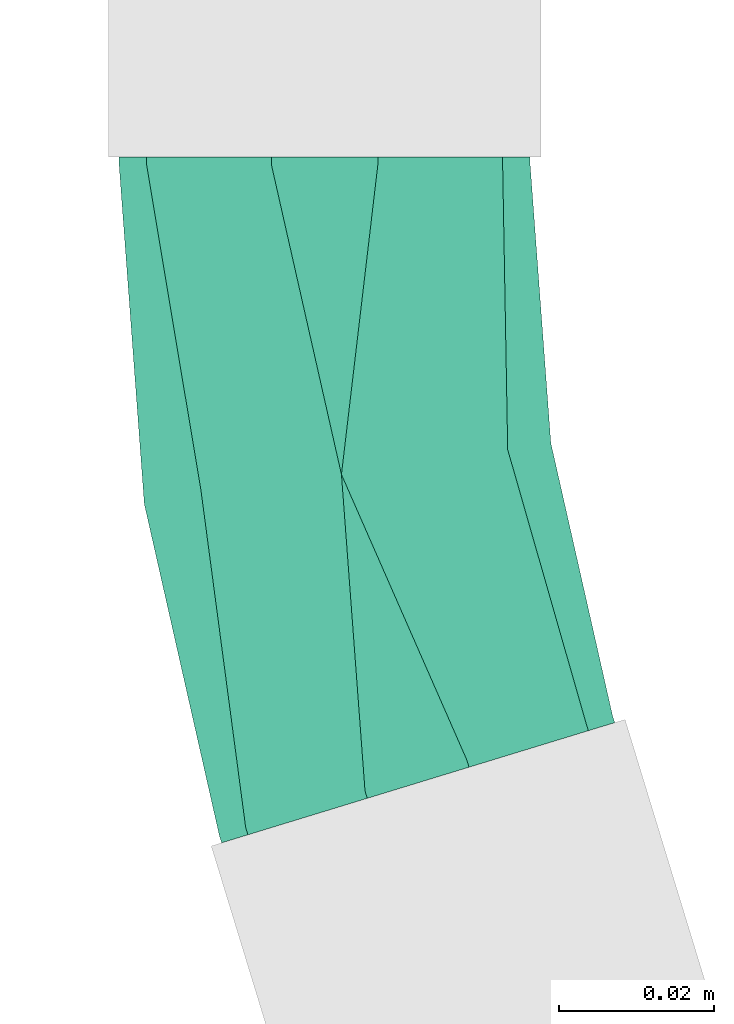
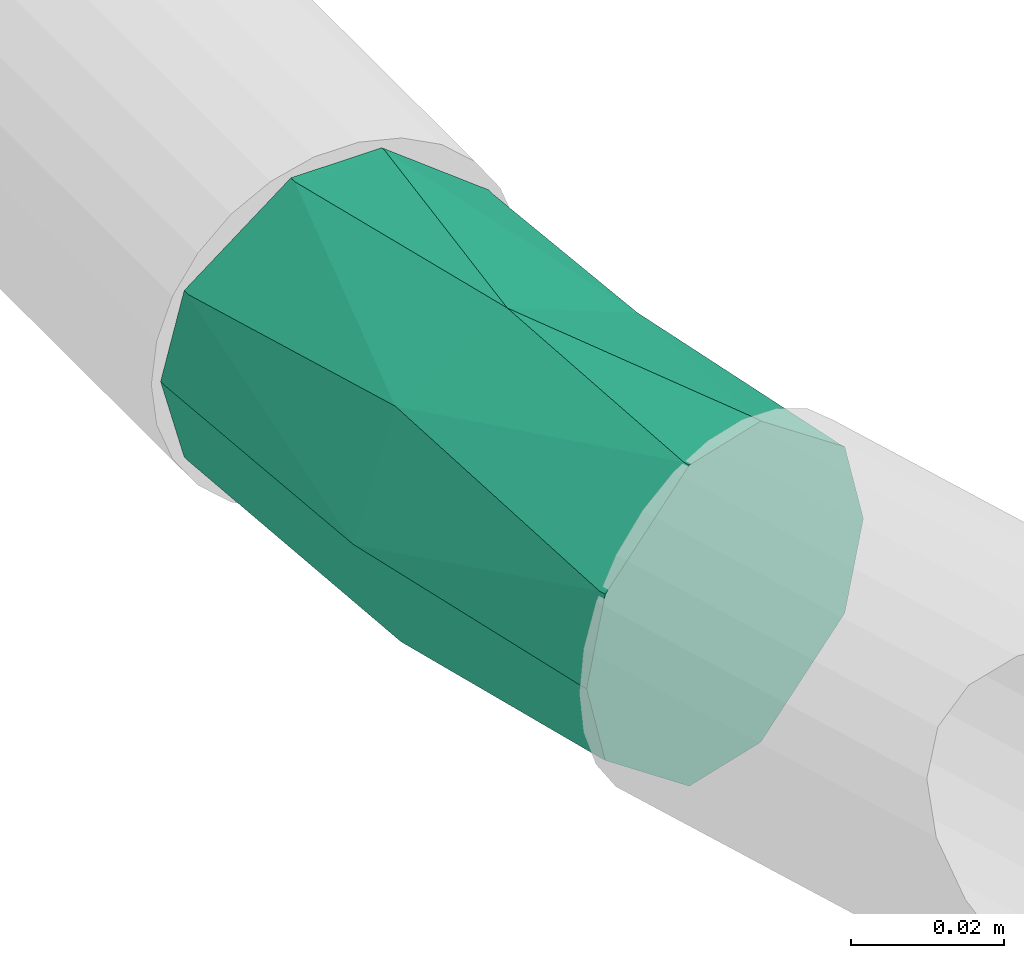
# One storey, part 149 of 153: 1 flow fitting.
"""IFC2X3 building model written with IfcOpenShell, lengths in metres."""

from ifc_helpers import new_model, entity, si_unit, converted_unit, derived_unit, direction, frame, origin, place, context, subcontext, project, spatial, faceted_brep, source, transform, mapped, type_object, type_shapes, element, save


model = new_model("IFC2X3")

# Units and contexts
model_context = context("Model", 3, precision=1e-05, world=origin(), true_north=direction((6.12303176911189e-17, 1.0)))
body_context = subcontext(model_context, "Body", "Model", "MODEL_VIEW")
ifc_project = project(units=[si_unit("LENGTHUNIT", "METRE"), si_unit("AREAUNIT", "SQUARE_METRE"), si_unit("VOLUMEUNIT", "CUBIC_METRE"), converted_unit("PLANEANGLEUNIT", "DEGREE", entity("IfcRatioMeasure", 0.0174532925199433), si_unit("PLANEANGLEUNIT", "RADIAN"), dimensions=[0, 0, 0, 0, 0, 0, 0]), si_unit("MASSUNIT", "GRAM", prefix="KILO"), derived_unit("MASSDENSITYUNIT", [(si_unit("MASSUNIT", "GRAM", prefix="KILO"), 1), (si_unit("LENGTHUNIT", "METRE"), -3)]), si_unit("TIMEUNIT", "SECOND"), si_unit("FREQUENCYUNIT", "HERTZ"), si_unit("THERMODYNAMICTEMPERATUREUNIT", "DEGREE_CELSIUS"), derived_unit("THERMALTRANSMITTANCEUNIT", [(si_unit("MASSUNIT", "GRAM", prefix="KILO"), 1), (si_unit("THERMODYNAMICTEMPERATUREUNIT", "KELVIN"), -1), (si_unit("TIMEUNIT", "SECOND"), -3)]), derived_unit("VOLUMETRICFLOWRATEUNIT", [(si_unit("LENGTHUNIT", "METRE"), 3), (si_unit("TIMEUNIT", "SECOND"), -1)]), si_unit("ELECTRICCURRENTUNIT", "AMPERE"), si_unit("ELECTRICVOLTAGEUNIT", "VOLT"), si_unit("POWERUNIT", "WATT"), si_unit("FORCEUNIT", "NEWTON"), si_unit("ILLUMINANCEUNIT", "LUX"), si_unit("LUMINOUSFLUXUNIT", "LUMEN"), si_unit("LUMINOUSINTENSITYUNIT", "CANDELA"), derived_unit("USERDEFINED", [(si_unit("MASSUNIT", "GRAM", prefix="KILO"), -1), (si_unit("LENGTHUNIT", "METRE"), -2), (si_unit("TIMEUNIT", "SECOND"), 3), (si_unit("LUMINOUSFLUXUNIT", "LUMEN"), 1)]), derived_unit("LINEARVELOCITYUNIT", [(si_unit("LENGTHUNIT", "METRE"), 1), (si_unit("TIMEUNIT", "SECOND"), -1)]), si_unit("PRESSUREUNIT", "PASCAL"), derived_unit("USERDEFINED", [(si_unit("LENGTHUNIT", "METRE"), -2), (si_unit("MASSUNIT", "GRAM", prefix="KILO"), 1), (si_unit("TIMEUNIT", "SECOND"), -2)])], contexts=[model_context])

# Site, building, storey
site_placement = place(None, origin())
site = spatial("IfcSite", under=ifc_project, at=site_placement, Name="Default", CompositionType="ELEMENT")
building_placement = place(site_placement, origin())
building = spatial("IfcBuilding", under=site, at=building_placement, CompositionType="ELEMENT")
storey_placement = place(building_placement, frame((0.0, 0.0, -4.62)))
storey = spatial("IfcBuildingStorey", under=building, at=storey_placement, Name="S02", CompositionType="ELEMENT", Elevation=-4.62)

# Flow fitting
cable_carrier_fitting_type = type_object("IfcCableCarrierFittingType", Name="E_E6120_Lightning Conductor_Bend_MEPcontent", PredefinedType="NOTDEFINED")
shared_shape = source(origin(), body_context, "Body", "Brep", [
    faceted_brep([(-0.0412322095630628, -0.0229496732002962, 0.0132499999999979), (-0.0412322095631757, -0.0189269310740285, 0.016336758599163), (-0.0412322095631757, -0.0149041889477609, 0.0194235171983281), (-0.0412322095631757, -0.0108814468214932, 0.0225102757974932), (-0.0412322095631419, -0.0068587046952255, 0.0255970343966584), (-0.0412322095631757, 0.0, 0.0255970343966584), (-0.0412322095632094, 0.00685870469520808, 0.0255970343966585), (-0.0412322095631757, 0.0108814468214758, 0.0225102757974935), (-0.0412322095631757, 0.0149041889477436, 0.0194235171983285), (-0.0412322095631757, 0.0189269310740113, 0.0163367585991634), (-0.0412322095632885, 0.022949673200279, 0.0132499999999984), (-0.0412322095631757, 0.0240062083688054, 0.00930695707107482), (-0.0412322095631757, 0.0250627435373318, 0.00536391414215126), (-0.041232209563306, 0.0264999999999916, 0.0), (-0.0412322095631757, 0.0247248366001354, -0.00662500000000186), (-0.0412322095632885, 0.0229496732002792, -0.0132500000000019), (-0.0412322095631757, 0.0189269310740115, -0.0163367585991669), (-0.0412322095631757, 0.0149041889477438, -0.019423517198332), (-0.0412322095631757, 0.0108814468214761, -0.0225102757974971), (-0.0412322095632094, 0.0068587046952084, -0.0255970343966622), (-0.0412322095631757, 0.0, -0.0255970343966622), (-0.0412322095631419, -0.00685870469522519, -0.0255970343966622), (-0.0412322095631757, -0.0108814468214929, -0.0225102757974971), (-0.0412322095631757, -0.0149041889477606, -0.0194235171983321), (-0.0412322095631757, -0.0189269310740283, -0.016336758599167), (-0.0412322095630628, -0.022949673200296, -0.0132500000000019), (-0.0412322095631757, -0.0240062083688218, -0.00930695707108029), (-0.0412322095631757, -0.0250627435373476, -0.00536391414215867), (-0.0412322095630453, -0.0265000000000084, 0.0), (-0.0412322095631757, -0.0247248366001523, 0.00662499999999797), (-0.0402322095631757, -0.0240062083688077, 0.00930695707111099), (-0.0402322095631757, -0.0229496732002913, 0.0132499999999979), (-0.0402322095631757, -0.0265000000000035, 0.0), (-0.0402322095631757, -0.0250627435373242, 0.00536391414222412), (-0.0402322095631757, 0.0229496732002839, 0.0132499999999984), (-0.0402322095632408, 0.0247248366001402, 0.00662499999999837), (-0.040232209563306, 0.0264999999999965, 0.0), (-0.0402322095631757, -0.0108814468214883, 0.0225102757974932), (-0.0402322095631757, -0.00685870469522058, 0.0255970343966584), (-0.0402322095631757, -0.0189269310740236, 0.016336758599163), (-0.0402322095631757, -0.0149041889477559, 0.0194235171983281), (-0.0402322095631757, 0.00685870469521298, 0.0255970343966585), (-0.0402322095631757, 0.0108814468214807, 0.0225102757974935), (-0.0402322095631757, 0.0149041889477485, 0.0194235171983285), (-0.0402322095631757, 0.0189269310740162, 0.0163367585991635), (-0.0402322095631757, 0.0, 0.0255970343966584), (0.0384742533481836, 0.0117627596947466, 0.0255970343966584), (0.040479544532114, 0.0052037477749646, 0.0255970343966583), (0.041435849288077, 0.00549611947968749, 0.0255970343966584), (0.0394305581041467, 0.0120551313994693, 0.0255970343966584), (0.0374252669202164, 0.0186141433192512, 0.0255970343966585), (0.0364689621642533, 0.0183217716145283, 0.0255970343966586), (-0.0402322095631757, 0.0240062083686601, -0.00930695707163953), (-0.0402322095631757, 0.0229496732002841, -0.0132500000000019), (-0.0402322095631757, 0.025062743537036, -0.00536391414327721), (-0.0402322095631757, -0.0229496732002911, -0.0132500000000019), (-0.0402322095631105, -0.0247248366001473, -0.00662500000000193), (-0.0402322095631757, 0.010881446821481, -0.0225102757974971), (-0.0402322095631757, 0.00685870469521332, -0.0255970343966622), (-0.0402322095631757, 0.0189269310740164, -0.0163367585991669), (-0.0402322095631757, 0.0149041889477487, -0.019423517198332), (-0.0402322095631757, -0.00685870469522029, -0.0255970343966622), (-0.0402322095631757, -0.010881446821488, -0.0225102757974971), (-0.0402322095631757, -0.0149041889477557, -0.0194235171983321), (-0.0402322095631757, -0.0189269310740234, -0.016336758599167), (-0.0402322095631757, 0.0, -0.0255970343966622), (0.0384742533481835, 0.0117627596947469, -0.0255970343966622), (0.0364689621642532, 0.0183217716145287, -0.0255970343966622), (0.0374252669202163, 0.0186141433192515, -0.0255970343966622), (0.0394305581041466, 0.0120551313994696, -0.0255970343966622), (0.0414358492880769, 0.00549611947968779, -0.0255970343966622), (0.0404795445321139, 0.00520374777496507, -0.0255970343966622), (-0.000323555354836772, 0.00216495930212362, 0.026487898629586), (0.00347503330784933, -0.0232519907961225, 0.0), (0.00177604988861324, -0.0159415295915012, 0.0184530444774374), (0.0451840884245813, -0.0101841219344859, 0.0132499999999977), (-0.00352699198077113, 0.0235996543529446, 0.0163282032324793), (-0.00435886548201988, 0.0291658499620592, 0.0), (0.0462221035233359, -0.0135793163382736, 0.0), (0.0457030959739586, -0.0118817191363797, 0.00662499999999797), (0.031764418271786, 0.0337096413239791, 0.0132499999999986), (0.0314555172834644, 0.0347200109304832, 0.00930695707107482), (0.0311466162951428, 0.0357303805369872, 0.00536391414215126), (0.0307264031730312, 0.0371048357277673, 0.0), (0.0352928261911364, 0.0221687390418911, 0.0225102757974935), (0.0341166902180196, 0.0260157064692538, 0.0194235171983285), (0.0329405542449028, 0.0298626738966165, 0.0163367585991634), (0.0440079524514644, -0.00633715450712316, 0.016336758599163), (0.0428318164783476, -0.00249018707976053, 0.0194235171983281), (0.0416556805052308, 0.00135678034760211, 0.0225102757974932), (0.00296240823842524, -0.0157642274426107, -0.0184530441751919), (0.0416556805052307, 0.00135678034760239, -0.0225102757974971), (0.0428318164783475, -0.00249018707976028, -0.0194235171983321), (0.0440079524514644, -0.00633715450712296, -0.016336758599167), (0.0451840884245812, -0.0101841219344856, -0.0132500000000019), (-0.000323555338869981, 0.00216495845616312, -0.0264878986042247), (-0.00352699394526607, 0.0235996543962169, -0.0163282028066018), (0.0317644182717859, 0.0337096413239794, -0.0132500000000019), (0.0329405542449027, 0.0298626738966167, -0.0163367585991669), (0.0341166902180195, 0.026015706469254, -0.019423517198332), (0.0352928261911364, 0.0221687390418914, -0.0225102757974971), (0.0312454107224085, 0.0354072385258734, -0.00662500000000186), (0.0454929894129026, -0.0111944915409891, -0.00930695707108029), (0.045801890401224, -0.0122048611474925, -0.00536391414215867), (0.0461403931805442, -0.0098917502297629, -0.0132500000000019), (0.0449642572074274, -0.00604478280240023, -0.016336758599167), (0.0437881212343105, -0.00219781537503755, -0.0194235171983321), (0.0426119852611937, 0.00164915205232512, -0.0225102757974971), (0.0362491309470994, 0.0224611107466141, -0.0225102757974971), (0.0350729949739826, 0.0263080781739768, -0.019423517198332), (0.0338968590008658, 0.0301550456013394, -0.0163367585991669), (0.032720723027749, 0.0340020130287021, -0.0132500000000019), (0.0324118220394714, 0.0350123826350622, -0.00930695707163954), (0.0321029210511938, 0.0360227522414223, -0.00536391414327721), (0.0316827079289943, 0.0373972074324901, 0.0), (0.0322017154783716, 0.035699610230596, 0.00662499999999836), (0.032720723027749, 0.034002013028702, 0.0132499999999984), (0.0338968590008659, 0.0301550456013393, 0.0163367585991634), (0.0350729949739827, 0.0263080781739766, 0.0194235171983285), (0.0362491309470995, 0.0224611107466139, 0.0225102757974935), (0.0426119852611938, 0.00164915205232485, 0.0225102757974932), (0.0437881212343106, -0.0021978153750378, 0.0194235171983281), (0.0449642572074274, -0.00604478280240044, 0.016336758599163), (0.0461403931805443, -0.00989175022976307, 0.0132499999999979), (0.0464492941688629, -0.0109021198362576, 0.00930695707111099), (0.0467581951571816, -0.0119124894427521, 0.00536391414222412), (0.0471784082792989, -0.0132869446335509, 0.0), (0.0466594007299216, -0.0115893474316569, -0.00662500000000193)], [[[0, 1, 2, 3, 4, 5, 6, 7, 8, 9, 10, 11, 12, 13, 14, 15, 16, 17, 18, 19, 20, 21, 22, 23, 24, 25, 26, 27, 28, 29]], [[30, 31, 0, 29, 28, 32, 33]], [[11, 10, 34, 35, 36, 13, 12]], [[37, 38, 4, 3, 2, 1, 0, 31, 39, 40]], [[9, 8, 7, 6, 41, 42, 43, 44, 34, 10]], [[5, 4, 38, 45, 41, 6]], [[46, 47, 48, 49, 50, 51]], [[52, 53, 15, 14, 13, 36, 54]], [[26, 25, 55, 56, 32, 28, 27]], [[57, 58, 19, 18, 17, 16, 15, 53, 59, 60]], [[24, 23, 22, 21, 61, 62, 63, 64, 55, 25]], [[20, 19, 58, 65, 61, 21]], [[66, 67, 68, 69, 70, 71]], [[72, 41, 45, 38]], [[31, 73, 74]], [[75, 74, 73]], [[72, 47, 46, 51]], [[76, 34, 44, 43, 42, 41]], [[34, 76, 77]], [[74, 38, 37, 40, 39, 31]], [[77, 36, 35, 34]], [[41, 72, 76]], [[51, 76, 72]], [[73, 31, 30, 33, 32]], [[38, 74, 72]], [[73, 78, 79, 75]], [[72, 74, 47]], [[77, 80, 81, 82, 83]], [[80, 77, 76]], [[76, 51, 84, 85, 86, 80]], [[74, 75, 87, 88, 89, 47]], [[90, 71, 91, 92, 93, 94]], [[71, 90, 95]], [[53, 77, 96]], [[95, 61, 65, 58]], [[73, 32, 56, 55]], [[90, 55, 64, 63, 62, 61]], [[90, 61, 95]], [[96, 97, 98, 99, 100, 67]], [[77, 53, 52, 54, 36]], [[77, 83, 101, 97]], [[96, 58, 57, 60, 59, 53]], [[95, 96, 67]], [[94, 73, 90]], [[55, 90, 73]], [[73, 94, 102, 103, 78]], [[58, 96, 95]], [[95, 67, 66, 71]], [[96, 77, 97]], [[104, 105, 106, 107, 70, 69, 68, 108, 109, 110, 111, 112, 113, 114, 115, 116, 117, 118, 119, 50, 49, 48, 120, 121, 122, 123, 124, 125, 126, 127]], [[124, 123, 75, 79, 78, 126, 125]], [[81, 80, 116, 115, 114, 83, 82]], [[120, 48, 47, 89, 88, 87, 75, 123, 122, 121]], [[86, 85, 84, 51, 50, 119, 118, 117, 116, 80]], [[112, 111, 97, 101, 83, 114, 113]], [[102, 94, 104, 127, 126, 78, 103]], [[108, 68, 67, 100, 99, 98, 97, 111, 110, 109]], [[93, 92, 91, 71, 70, 107, 106, 105, 104, 94]]]),
])
type_shapes(cable_carrier_fitting_type, [shared_shape])
flow_fitting_placement = place(building_placement, frame((36.8520055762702, -174.310175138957, -4.7921), z_axis=(0.0, 0.0, 1.0), x_axis=(0.0, -1.0, 0.0)))
element("IfcFlowFitting", 1, at=flow_fitting_placement, inside=storey, type_object=cable_carrier_fitting_type, Name="E_Lightning Conductor_Bend_MEPcontent:E_E6120_Lightning Conductor_Bend_MEPcontent", ObjectType="E_Lightning Conductor_Bend_MEPcontent:E_E6120_Lightning Conductor_Bend_MEPcontent", context=body_context, shape_type="MappedRepresentation", body=[
    mapped(shared_shape, transform((0.0, 0.0, 0.0), scale=1.0)),
])

save(model, "model.ifc")
